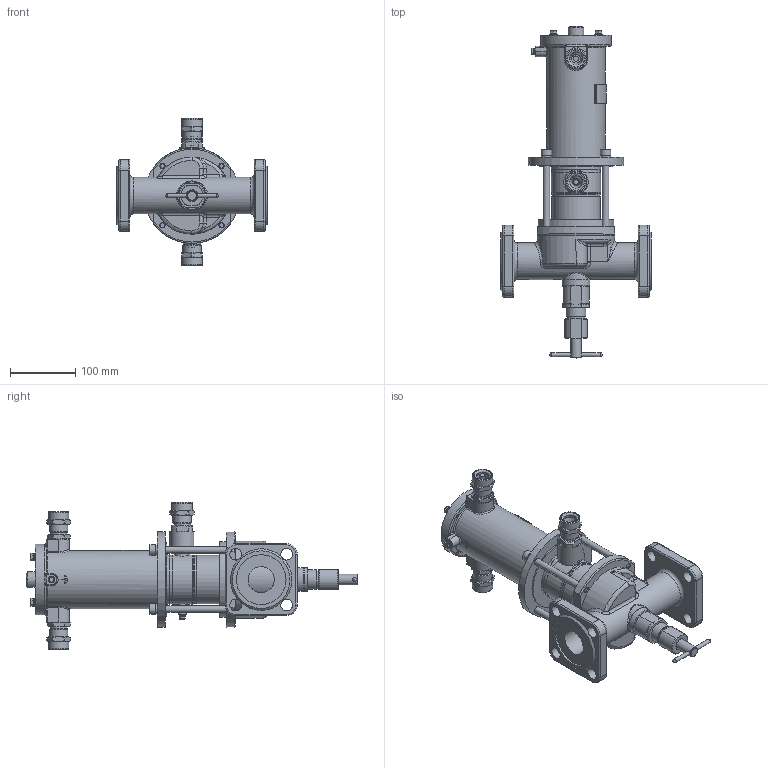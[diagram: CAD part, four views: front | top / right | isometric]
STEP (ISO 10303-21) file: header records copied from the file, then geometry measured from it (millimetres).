
FILE_DESCRIPTION(('STEP AP203'), '1');
FILE_NAME('ÑÅÍÑ DN40PN25-Â-ÄÏ1-ÑÂ.stp', '2018-09-19T08:50:15', ('Îðëîâ Å.Â.'), ('ÎÎÎ ÍÏÏ Ñåíñîð'), 'ASCON STEP Converter 1.3', 'Kompas 3D', '');
FILE_SCHEMA(('CONFIG_CONTROL_DESIGN','SUPPORT_RESOURCE_SCHEMA'));
Length unit declared in the file: millimetre
Products named in the file (1): 72
Bounding box: 230 x 507.66 x 225 mm (x, y, z)
Volume: 1864926 mm3; surface area: 500661.8 mm2
Topology: 2 solids, 26 shells, 2175 faces, 5662 edges, 3655 vertices
Faces by surface type: cylinder 1085, plane 810, cone 160, torus 53, bspline 47, extrusion 16, sphere 4
Full cylindrical faces by diameter (mm): 2.459 x1, 3.5 x2, 4.134 x6, 4.917 x4, 5 x2, 5.3 x1, 6 x10, 6.5 x4, 8 x10, 8.2 x1, 8.376 x4, 8.5 x1, 10 x6, 11 x5, 12 x6, 13 x4, 16 x6, 16.004 x2, 17 x2, 17.5 x1, 18 x9, 20 x6, 22 x2, 22.376 x2, 23 x2, 23.5 x3, 24 x4, 24.5 x2, 25 x2, 26 x6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
Entity records: 84342 total; most frequent: CARTESIAN_POINT 29816, DIRECTION 11823, ORIENTED_EDGE 11264, EDGE_CURVE 5632, AXIS2_PLACEMENT_3D 4571, VERTEX_POINT 3655, VECTOR 2681, LINE 2665
